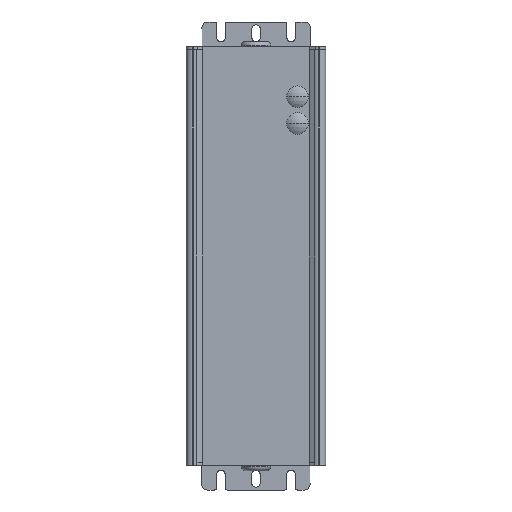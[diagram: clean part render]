
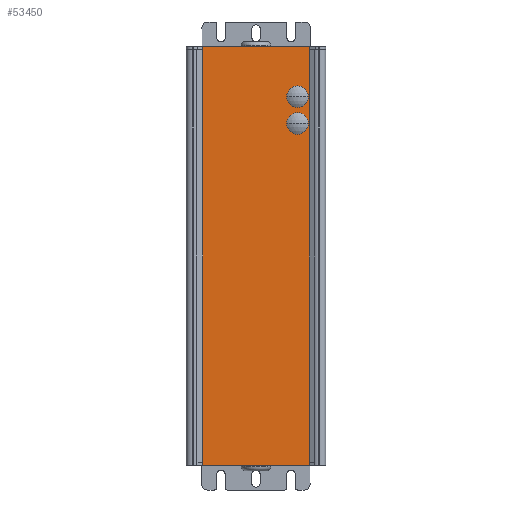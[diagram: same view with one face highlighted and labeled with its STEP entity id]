
A CAD part, left-side view. The second image highlights one B-rep face of the part: STEP entity #53450.
In plain terms, the highlighted planar face has unit normal (-1, 0, 0) as drawn and (0, 1, 0) by its records, which use the part's own axes.
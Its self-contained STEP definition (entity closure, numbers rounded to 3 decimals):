
#4680=CARTESIAN_POINT('',(1951.285,-2415.053,
14.6));
#4690=VERTEX_POINT('',#4680);
#4720=CARTESIAN_POINT('',(1951.285,-2415.053,14.44)
);
#4730=DIRECTION('',(0.,0.,1.));
#4740=VECTOR('',#4730,1.);
#4750=LINE('',#4720,#4740);
#4760=CARTESIAN_POINT('',(1951.285,-2415.053,16.2));
#4770=VERTEX_POINT('',#4760);
#4780=EDGE_CURVE('',#4690,#4770,#4750,.T.);
#5500=CARTESIAN_POINT('',(2003.285,-2415.053,16.2));
#5510=VERTEX_POINT('',#5500);
#5540=CARTESIAN_POINT('',(2003.285,-2415.053,14.44)
);
#5550=DIRECTION('',(0.,0.,1.));
#5560=VECTOR('',#5550,1.);
#5570=LINE('',#5540,#5560);
#5580=CARTESIAN_POINT('',(2003.285,-2415.053,
14.6));
#5590=VERTEX_POINT('',#5580);
#5600=EDGE_CURVE('',#5590,#5510,#5570,.T.);
#14810=CARTESIAN_POINT('',(2003.235,-2415.053,
217.));
#14820=VERTEX_POINT('',#14810);
#14850=CARTESIAN_POINT('',(3954.519,-2415.053,
217.));
#14860=DIRECTION('',(1.,0.,0.));
#14870=VECTOR('',#14860,1.);
#14880=LINE('',#14850,#14870);
#14890=CARTESIAN_POINT('',(2003.285,-2415.053,
217.));
#14900=VERTEX_POINT('',#14890);
#14910=EDGE_CURVE('',#14820,#14900,#14880,.T.);
#26600=CARTESIAN_POINT('',(1951.235,-2415.053,217.));
#26610=VERTEX_POINT('',#26600);
#26640=CARTESIAN_POINT('',(1951.235,-2415.053,
218.76));
#26650=DIRECTION('',(0.,0.,-1.));
#26660=VECTOR('',#26650,1.);
#26670=LINE('',#26640,#26660);
#26680=CARTESIAN_POINT('',(1951.235,-2415.053,
218.6));
#26690=VERTEX_POINT('',#26680);
#26700=EDGE_CURVE('',#26690,#26610,#26670,.T.);
#27100=CARTESIAN_POINT('',(1951.285,-2415.053,15.));
#27110=DIRECTION('',(0.,0.,1.));
#27120=VECTOR('',#27110,1.);
#27130=LINE('',#27100,#27120);
#27140=CARTESIAN_POINT('',(1951.285,-2415.053,217.));
#27150=VERTEX_POINT('',#27140);
#27160=EDGE_CURVE('',#4770,#27150,#27130,.T.);
#27730=CARTESIAN_POINT('',(2003.285,-2415.053,15.));
#27740=DIRECTION('',(0.,0.,1.));
#27750=VECTOR('',#27740,1.);
#27760=LINE('',#27730,#27750);
#27770=EDGE_CURVE('',#5510,#14900,#27760,.T.);
#28170=CARTESIAN_POINT('',(2003.235,-2415.053,
218.6));
#28180=VERTEX_POINT('',#28170);
#28210=CARTESIAN_POINT('',(2003.235,-2415.053,
218.76));
#28220=DIRECTION('',(0.,0.,-1.));
#28230=VECTOR('',#28220,1.);
#28240=LINE('',#28210,#28230);
#28250=EDGE_CURVE('',#28180,#14820,#28240,.T.);
#39710=CARTESIAN_POINT('',(3954.519,-2415.053,217.));
#39720=DIRECTION('',(-1.,0.,0.));
#39730=VECTOR('',#39720,1.);
#39740=LINE('',#39710,#39730);
#39750=EDGE_CURVE('',#27150,#26610,#39740,.T.);
#43770=CARTESIAN_POINT('',(0.,-2415.053,14.6));
#43780=DIRECTION('',(1.,0.,0.));
#43790=VECTOR('',#43780,1.);
#43800=LINE('',#43770,#43790);
#43810=EDGE_CURVE('',#4690,#5590,#43800,.T.);
#52930=CARTESIAN_POINT('',(1951.285,-2415.053,15.));
#52940=DIRECTION('',(0.,1.,0.));
#52950=DIRECTION('',(1.,0.,0.));
#52960=AXIS2_PLACEMENT_3D('',#52930,#52940,#52950);
#52970=PLANE('',#52960);
#52980=CARTESIAN_POINT('',(1957.035,-2415.053,
181.2));
#52990=DIRECTION('',(0.,1.,0.));
#53000=DIRECTION('',(-1.,0.,0.));
#53010=AXIS2_PLACEMENT_3D('',#52980,#52990,#53000);
#53020=CIRCLE('',#53010,5.25);
#53030=CARTESIAN_POINT('',(1951.785,-2415.053,
181.2));
#53040=VERTEX_POINT('',#53030);
#53050=CARTESIAN_POINT('',(1962.285,-2415.053,
181.2));
#53060=VERTEX_POINT('',#53050);
#53070=EDGE_CURVE('',#53040,#53060,#53020,.T.);
#53080=ORIENTED_EDGE('',*,*,#53070,.F.);
#53090=EDGE_CURVE('',#53060,#53040,#53020,.T.);
#53100=ORIENTED_EDGE('',*,*,#53090,.F.);
#53110=EDGE_LOOP('',(#53100,#53080));
#53120=FACE_BOUND('',#53110,.T.);
#53130=CARTESIAN_POINT('',(1957.035,-2415.053,
194.2));
#53140=DIRECTION('',(0.,1.,0.));
#53150=DIRECTION('',(-1.,0.,0.));
#53160=AXIS2_PLACEMENT_3D('',#53130,#53140,#53150);
#53170=CIRCLE('',#53160,5.25);
#53180=CARTESIAN_POINT('',(1951.785,-2415.053,
194.2));
#53190=VERTEX_POINT('',#53180);
#53200=CARTESIAN_POINT('',(1962.285,-2415.053,
194.2));
#53210=VERTEX_POINT('',#53200);
#53220=EDGE_CURVE('',#53190,#53210,#53170,.T.);
#53230=ORIENTED_EDGE('',*,*,#53220,.F.);
#53240=EDGE_CURVE('',#53210,#53190,#53170,.T.);
#53250=ORIENTED_EDGE('',*,*,#53240,.F.);
#53260=EDGE_LOOP('',(#53250,#53230));
#53270=FACE_BOUND('',#53260,.T.);
#53280=ORIENTED_EDGE('',*,*,#4780,.T.);
#53290=ORIENTED_EDGE('',*,*,#43810,.F.);
#53300=ORIENTED_EDGE('',*,*,#5600,.F.);
#53310=ORIENTED_EDGE('',*,*,#27770,.F.);
#53320=ORIENTED_EDGE('',*,*,#14910,.T.);
#53330=ORIENTED_EDGE('',*,*,#28250,.T.);
#53340=CARTESIAN_POINT('',(3954.519,-2415.053,
218.6));
#53350=DIRECTION('',(-1.,0.,0.));
#53360=VECTOR('',#53350,1.);
#53370=LINE('',#53340,#53360);
#53380=EDGE_CURVE('',#28180,#26690,#53370,.T.);
#53390=ORIENTED_EDGE('',*,*,#53380,.F.);
#53400=ORIENTED_EDGE('',*,*,#26700,.F.);
#53410=ORIENTED_EDGE('',*,*,#39750,.T.);
#53420=ORIENTED_EDGE('',*,*,#27160,.T.);
#53430=EDGE_LOOP('',(#53420,#53410,#53400,#53390,#53330,#53320,#53310,
#53300,#53290,#53280));
#53440=FACE_OUTER_BOUND('',#53430,.T.);
#53450=ADVANCED_FACE('',(#53120,#53270,#53440),#52970,.T.);
